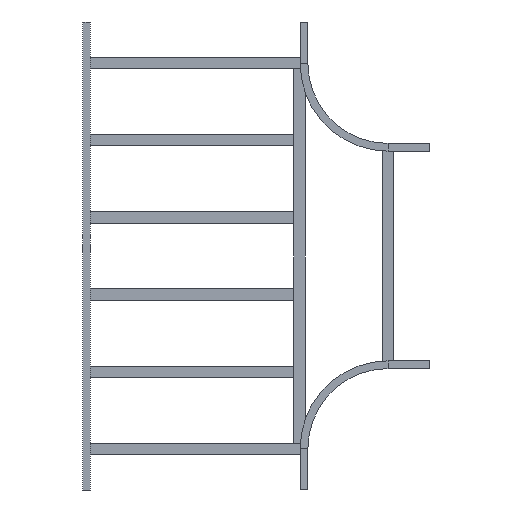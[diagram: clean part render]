
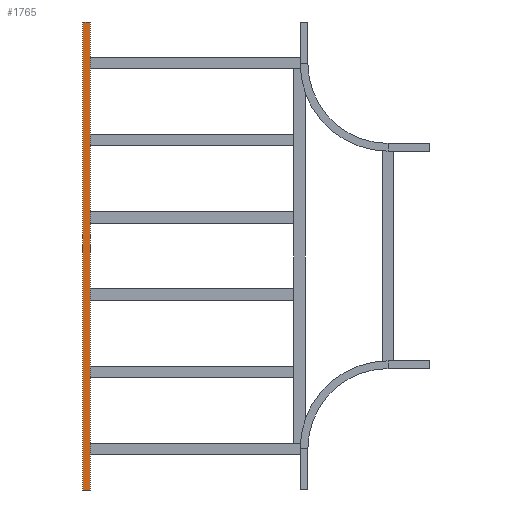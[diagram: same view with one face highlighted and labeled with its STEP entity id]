
A CAD part, front view. The second image highlights one B-rep face of the part: STEP entity #1765.
In plain terms, the highlighted planar face has unit normal (0, -1, 0).
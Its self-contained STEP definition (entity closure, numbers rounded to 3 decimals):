
#121 = LINE ( 'NONE', #1102, #3009 ) ;
#203 = LINE ( 'NONE', #2540, #733 ) ;
#457 = EDGE_CURVE ( 'NONE', #2548, #3415, #2343, .T. ) ;
#576 = EDGE_LOOP ( 'NONE', ( #1673, #2899, #4162, #3828 ) ) ;
#579 = DIRECTION ( 'NONE',  ( 0., -1., 0. ) ) ;
#599 = PLANE ( 'NONE',  #1712 ) ;
#616 = DIRECTION ( 'NONE',  ( 0., 0., 1. ) ) ;
#733 = VECTOR ( 'NONE', #4151, 1000. ) ;
#829 = EDGE_CURVE ( 'NONE', #2548, #1478, #1871, .T. ) ;
#989 = FACE_OUTER_BOUND ( 'NONE', #576, .T. ) ;
#1102 = CARTESIAN_POINT ( 'NONE',  ( 28., 0., 0. ) ) ;
#1126 = EDGE_CURVE ( 'NONE', #1478, #2934, #203, .T. ) ;
#1158 = DIRECTION ( 'NONE',  ( 1., 0., 0. ) ) ;
#1478 = VERTEX_POINT ( 'NONE', #4104 ) ;
#1594 = CARTESIAN_POINT ( 'NONE',  ( 0., 0., 0. ) ) ;
#1673 = ORIENTED_EDGE ( 'NONE', *, *, #1960, .F. ) ;
#1712 = AXIS2_PLACEMENT_3D ( 'NONE', #3569, #579, #3279 ) ;
#1765 = ADVANCED_FACE ( 'NONE', ( #989 ), #599, .T. ) ;
#1803 = CARTESIAN_POINT ( 'NONE',  ( 28., 0., -1700. ) ) ;
#1871 = LINE ( 'NONE', #1803, #2569 ) ;
#1960 = EDGE_CURVE ( 'NONE', #3415, #2934, #121, .T. ) ;
#2343 = LINE ( 'NONE', #3690, #3556 ) ;
#2439 = DIRECTION ( 'NONE',  ( 1., 0., 0. ) ) ;
#2540 = CARTESIAN_POINT ( 'NONE',  ( 28., 0., -1700. ) ) ;
#2548 = VERTEX_POINT ( 'NONE', #3848 ) ;
#2569 = VECTOR ( 'NONE', #1158, 1000. ) ;
#2899 = ORIENTED_EDGE ( 'NONE', *, *, #457, .F. ) ;
#2934 = VERTEX_POINT ( 'NONE', #3840 ) ;
#3009 = VECTOR ( 'NONE', #2439, 1000. ) ;
#3279 = DIRECTION ( 'NONE',  ( 1., 0., 0. ) ) ;
#3415 = VERTEX_POINT ( 'NONE', #1594 ) ;
#3556 = VECTOR ( 'NONE', #616, 1000. ) ;
#3569 = CARTESIAN_POINT ( 'NONE',  ( 28., 0., -1700. ) ) ;
#3690 = CARTESIAN_POINT ( 'NONE',  ( 0., 0., -1700. ) ) ;
#3828 = ORIENTED_EDGE ( 'NONE', *, *, #1126, .T. ) ;
#3840 = CARTESIAN_POINT ( 'NONE',  ( 28., 0., 0. ) ) ;
#3848 = CARTESIAN_POINT ( 'NONE',  ( 0., 0., -1700. ) ) ;
#4104 = CARTESIAN_POINT ( 'NONE',  ( 28., 0., -1700. ) ) ;
#4151 = DIRECTION ( 'NONE',  ( 0., 0., 1. ) ) ;
#4162 = ORIENTED_EDGE ( 'NONE', *, *, #829, .T. ) ;
